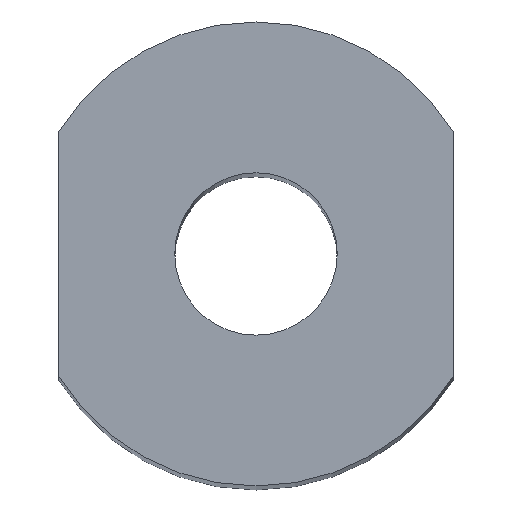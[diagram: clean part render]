
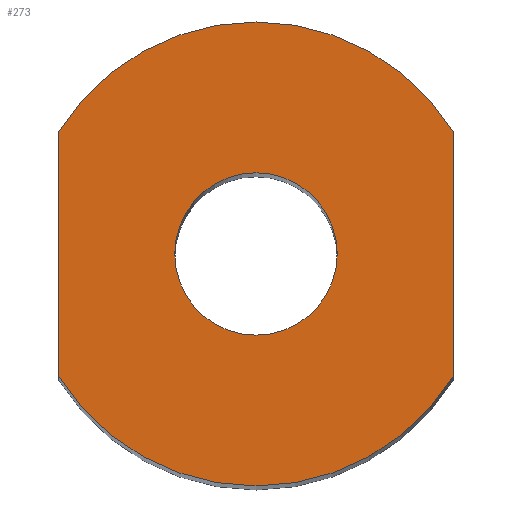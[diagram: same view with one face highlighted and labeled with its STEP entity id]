
A CAD part, top view. The second image highlights one B-rep face of the part: STEP entity #273.
In plain terms, the highlighted planar face has unit normal (0, 0, 1).
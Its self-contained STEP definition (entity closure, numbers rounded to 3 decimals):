
#5 = AXIS2_PLACEMENT_3D ( 'NONE', #270, #201, #113 ) ;
#9 = DIRECTION ( 'NONE',  ( 0., 1., 0. ) ) ;
#12 = PLANE ( 'NONE',  #194 ) ;
#18 = VERTEX_POINT ( 'NONE', #191 ) ;
#35 = CIRCLE ( 'NONE', #122, 3.5 ) ;
#43 = ORIENTED_EDGE ( 'NONE', *, *, #253, .F. ) ;
#51 = CARTESIAN_POINT ( 'NONE',  ( 749.2, 380.632, 100. ) ) ;
#56 = FACE_BOUND ( 'NONE', #77, .T. ) ;
#60 = FACE_OUTER_BOUND ( 'NONE', #178, .T. ) ;
#66 = CARTESIAN_POINT ( 'NONE',  ( 757.7, 385.9, 100. ) ) ;
#68 = EDGE_CURVE ( 'NONE', #75, #144, #35, .T. ) ;
#73 = EDGE_CURVE ( 'NONE', #144, #75, #101, .T. ) ;
#75 = VERTEX_POINT ( 'NONE', #217 ) ;
#77 = EDGE_LOOP ( 'NONE', ( #197, #83 ) ) ;
#82 = DIRECTION ( 'NONE',  ( 1., 0., 0. ) ) ;
#83 = ORIENTED_EDGE ( 'NONE', *, *, #73, .T. ) ;
#85 = CARTESIAN_POINT ( 'NONE',  ( 761.2, 385.9, 100. ) ) ;
#94 = CARTESIAN_POINT ( 'NONE',  ( 766.2, 380.632, 100. ) ) ;
#95 = LINE ( 'NONE', #179, #199 ) ;
#101 = CIRCLE ( 'NONE', #206, 3.5 ) ;
#109 = DIRECTION ( 'NONE',  ( 0., -1., 0. ) ) ;
#113 = DIRECTION ( 'NONE',  ( -1., 0., 0. ) ) ;
#122 = AXIS2_PLACEMENT_3D ( 'NONE', #143, #264, #215 ) ;
#126 = CARTESIAN_POINT ( 'NONE',  ( 757.7, 385.9, 100. ) ) ;
#128 = VERTEX_POINT ( 'NONE', #222 ) ;
#130 = DIRECTION ( 'NONE',  ( -1., 0., 0. ) ) ;
#134 = ORIENTED_EDGE ( 'NONE', *, *, #162, .F. ) ;
#141 = AXIS2_PLACEMENT_3D ( 'NONE', #66, #225, #130 ) ;
#142 = EDGE_CURVE ( 'NONE', #243, #214, #95, .T. ) ;
#143 = CARTESIAN_POINT ( 'NONE',  ( 757.7, 385.9, 100. ) ) ;
#144 = VERTEX_POINT ( 'NONE', #85 ) ;
#162 = EDGE_CURVE ( 'NONE', #18, #243, #271, .T. ) ;
#168 = EDGE_CURVE ( 'NONE', #214, #128, #177, .T. ) ;
#170 = DIRECTION ( 'NONE',  ( 0., 0., -1. ) ) ;
#177 = CIRCLE ( 'NONE', #5, 10. ) ;
#178 = EDGE_LOOP ( 'NONE', ( #134, #43, #254, #265 ) ) ;
#179 = CARTESIAN_POINT ( 'NONE',  ( 766.2, 391.168, 100. ) ) ;
#181 = LINE ( 'NONE', #51, #195 ) ;
#191 = CARTESIAN_POINT ( 'NONE',  ( 749.2, 391.168, 100. ) ) ;
#194 = AXIS2_PLACEMENT_3D ( 'NONE', #278, #208, #255 ) ;
#195 = VECTOR ( 'NONE', #9, 1000. ) ;
#197 = ORIENTED_EDGE ( 'NONE', *, *, #68, .T. ) ;
#199 = VECTOR ( 'NONE', #109, 1000. ) ;
#201 = DIRECTION ( 'NONE',  ( 0., 0., -1. ) ) ;
#206 = AXIS2_PLACEMENT_3D ( 'NONE', #126, #170, #82 ) ;
#208 = DIRECTION ( 'NONE',  ( 0., 0., -1. ) ) ;
#214 = VERTEX_POINT ( 'NONE', #94 ) ;
#215 = DIRECTION ( 'NONE',  ( 1., 0., 0. ) ) ;
#217 = CARTESIAN_POINT ( 'NONE',  ( 754.2, 385.9, 100. ) ) ;
#222 = CARTESIAN_POINT ( 'NONE',  ( 749.2, 380.632, 100. ) ) ;
#225 = DIRECTION ( 'NONE',  ( 0., 0., -1. ) ) ;
#243 = VERTEX_POINT ( 'NONE', #274 ) ;
#253 = EDGE_CURVE ( 'NONE', #128, #18, #181, .T. ) ;
#254 = ORIENTED_EDGE ( 'NONE', *, *, #168, .F. ) ;
#255 = DIRECTION ( 'NONE',  ( -1., 0., 0. ) ) ;
#264 = DIRECTION ( 'NONE',  ( 0., 0., -1. ) ) ;
#265 = ORIENTED_EDGE ( 'NONE', *, *, #142, .F. ) ;
#270 = CARTESIAN_POINT ( 'NONE',  ( 757.7, 385.9, 100. ) ) ;
#271 = CIRCLE ( 'NONE', #141, 10. ) ;
#273 = ADVANCED_FACE ( 'NONE', ( #56, #60 ), #12, .F. ) ;
#274 = CARTESIAN_POINT ( 'NONE',  ( 766.2, 391.168, 100. ) ) ;
#278 = CARTESIAN_POINT ( 'NONE',  ( 757.7, 385.9, 100. ) ) ;
